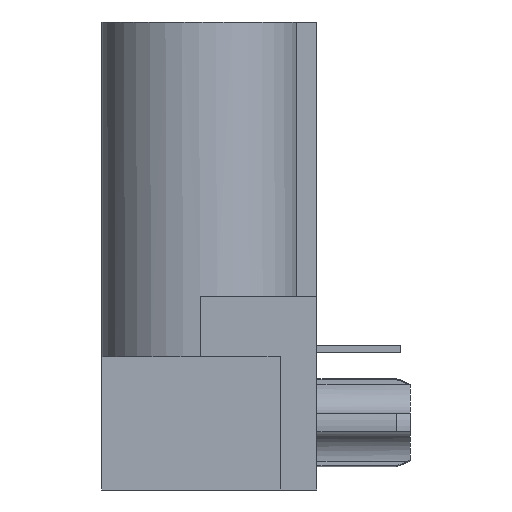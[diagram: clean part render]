
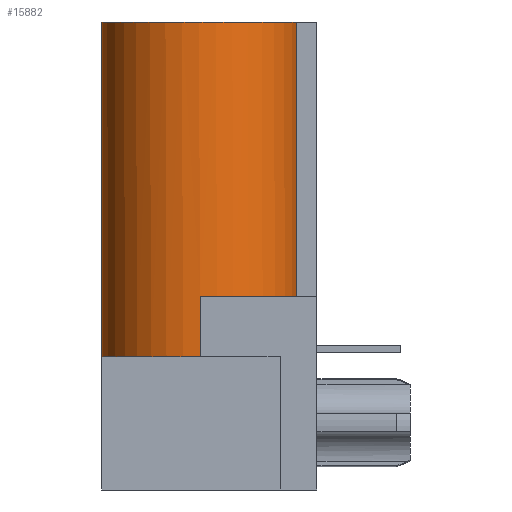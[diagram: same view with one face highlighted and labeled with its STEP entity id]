
A CAD part, left-side view. The second image highlights one B-rep face of the part: STEP entity #15882.
In plain terms, the highlighted cylindrical face has radius 3.43 mm (diameter 6.86 mm), a partial arc.
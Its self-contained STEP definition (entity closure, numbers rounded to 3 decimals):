
#1729=CARTESIAN_POINT('',(-26.94,-0.04,-1.4));
#1730=DIRECTION('',(0.,0.,-1.));
#1731=DIRECTION('',(-0.201,-0.98,0.));
#1732=AXIS2_PLACEMENT_3D('',#1729,#1730,#1731);
#1747=DIRECTION('',(0.,0.,1.));
#1748=VECTOR('',#1747,2.11);
#1749=CARTESIAN_POINT('',(-30.37,-0.04,-3.51));
#1750=LINE('',#1749,#1748);
#1767=DIRECTION('',(0.,0.,1.));
#1768=VECTOR('',#1767,11.65);
#1769=CARTESIAN_POINT('',(-26.94,3.39,-3.51));
#1770=LINE('',#1769,#1768);
#1771=DIRECTION('',(0.,0.,-1.));
#1772=VECTOR('',#1771,9.54);
#1773=CARTESIAN_POINT('',(-27.629,-3.4,8.14));
#1774=LINE('',#1773,#1772);
#1784=CARTESIAN_POINT('',(-26.94,-0.04,-3.51));
#1785=DIRECTION('',(0.,0.,1.));
#1786=DIRECTION('',(0.,1.,0.));
#1787=AXIS2_PLACEMENT_3D('',#1784,#1785,#1786);
#1895=CARTESIAN_POINT('',(-26.94,-0.04,8.14));
#1896=DIRECTION('',(0.,0.,-1.));
#1897=DIRECTION('',(-0.201,-0.98,0.));
#1898=AXIS2_PLACEMENT_3D('',#1895,#1896,#1897);
#10927=CARTESIAN_POINT('',(-27.629,-3.4,8.14));
#10928=CARTESIAN_POINT('',(-26.94,3.39,8.14));
#10929=VERTEX_POINT('',#10927);
#10930=VERTEX_POINT('',#10928);
#10937=CARTESIAN_POINT('',(-27.629,-3.4,-1.4));
#10938=VERTEX_POINT('',#10937);
#10951=CARTESIAN_POINT('',(-30.37,-0.04,-3.51));
#10952=CARTESIAN_POINT('',(-30.37,-0.04,-1.4));
#10953=VERTEX_POINT('',#10951);
#10954=VERTEX_POINT('',#10952);
#10965=CARTESIAN_POINT('',(-26.94,3.39,-3.51));
#10966=VERTEX_POINT('',#10965);
#15865=CARTESIAN_POINT('',(-26.94,-0.04,8.14));
#15866=DIRECTION('',(0.,0.,1.));
#15867=DIRECTION('',(1.,0.,0.));
#15868=AXIS2_PLACEMENT_3D('',#15865,#15866,#15867);
#15869=CYLINDRICAL_SURFACE('',#15868,3.43);
#15870=ORIENTED_EDGE('',*,*,#15824,.T.);
#15871=ORIENTED_EDGE('',*,*,#15852,.F.);
#15873=ORIENTED_EDGE('',*,*,#15872,.F.);
#15875=ORIENTED_EDGE('',*,*,#15874,.T.);
#15877=ORIENTED_EDGE('',*,*,#15876,.F.);
#15879=ORIENTED_EDGE('',*,*,#15878,.T.);
#15880=EDGE_LOOP('',(#15870,#15871,#15873,#15875,#15877,#15879));
#15881=FACE_OUTER_BOUND('',#15880,.F.);
#15882=ADVANCED_FACE('',(#15881),#15869,.T.);
#1733=CIRCLE('',#1732,3.43);
#1788=CIRCLE('',#1787,3.43);
#1899=CIRCLE('',#1898,3.43);
#15824=EDGE_CURVE('',#10938,#10954,#1733,.T.);
#15852=EDGE_CURVE('',#10953,#10954,#1750,.T.);
#15872=EDGE_CURVE('',#10966,#10953,#1788,.T.);
#15874=EDGE_CURVE('',#10966,#10930,#1770,.T.);
#15876=EDGE_CURVE('',#10929,#10930,#1899,.T.);
#15878=EDGE_CURVE('',#10929,#10938,#1774,.T.);
